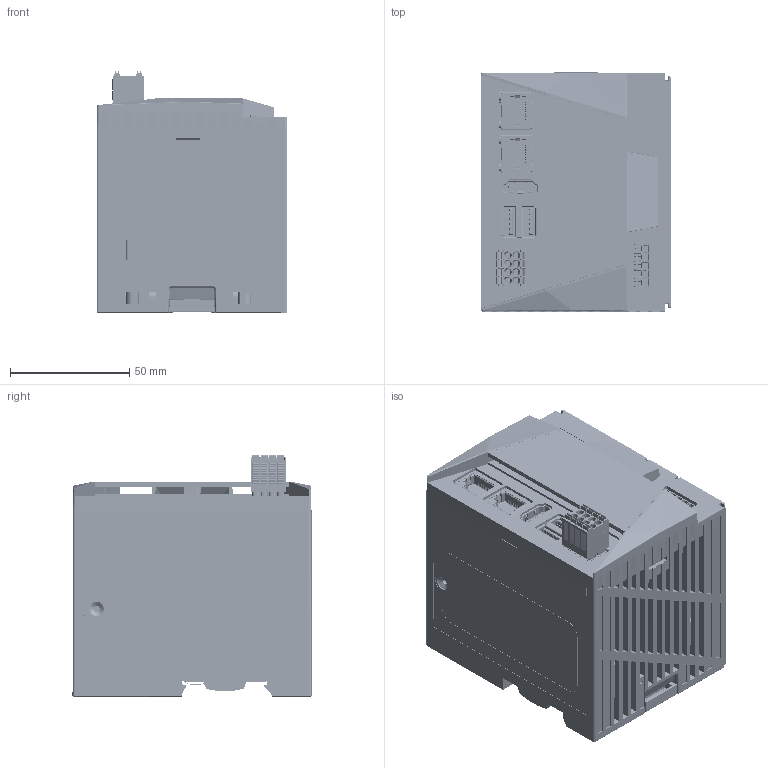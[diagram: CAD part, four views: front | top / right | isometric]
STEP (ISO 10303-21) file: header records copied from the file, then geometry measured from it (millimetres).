
FILE_DESCRIPTION((''),'2;1');
FILE_NAME('SX58__3D_ASM_ASM','2024-05-23T',('18137'),(''),'CREO PARAMETRIC BY PTC INC, 2016050','CREO PARAMETRIC BY PTC INC, 2016050','');
FILE_SCHEMA(('CONFIG_CONTROL_DESIGN'));
Products named in the file (45): PCB-DC_2_1; PCB-DC_2_2; PCB-DC_2_ASM; HDMI_1PORT-SIDERA-DIP_1; 15EDGRHC-THR-3_5-04P-13-00A_H__; 15EDGKNH-3_5-08P-14-00A_H__1; CK_ASM_1_ASM; USBX2_33_DIP_1; RB1-M0-1_RB1-M110_IP_10_OP-6658; RB1-P21X__2_______ALOCK___S___C; RB1-M0-1_RB1-M110_IP_10_OP-7667; RB1-M0-1_RB1-M110_IP_10_OP-7883; RB1-M0-1_RB1-M110_IP_10_OP-8535; LED_RIGHT___-2-SOLID1_1; RB1-C110_L___A-1_RB1-C110_5-1-S; RB1-M0-1_RB1-M110_IP_10_O-43653; RB1-M0-1_RB1-M110_IP_10_O-43850; RB1-M0-1_RB1-M110_IP_10_O-48815; RB1-C110_L___A-1_RB1-C110_7-1-S; RB1-M0-1_RB1-M110_IP_10_O-49218; RB1-C110_L___A-1_RB1-C110_8-1-S; RB1-C110_L___A-1_RB1-C110_3-1-S; RB1-C110_L___A-1_RB1-C110_4-1-S; Z26-RB10_9F1-1-SOLID1_1; RB1-C110_L___A-1_RB1-C110_1-1-S; RB1-M0-1_RB1-M110_IP_10_O-51459; RB1-M0-1_RB1-M110_IP_10_O-89698; RB1-S11X-X2_Y_TYPE_T_SPN1_0__S_; RB1-C110_L___A-1_RB1-C110_6-1-S; LED_RIGHT___-1-SOLID1_1; RB1-C110_L___A-1_RB1-C110_2-1-S; RB1-M0-1_RB1-M110_IP_10_O-93201; RJ45-1X1-LED-DOWN-TRANS-SHELL_1_ASM; RJ45-1X1-LED-DOWN-TRANS-SHELL-W_ASM; PCB-DC_ASM_30_ASM; BOTTOM_MD1_01_21_1; BOTTOM_MD1_01_21_2; BOTTOM_MD1_01_21_3; BOTTOM_MD1_01_21_4; BOTTOM_MD1_01_21_5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
Assembly tree (45 placements, depth 6):
  SX58__3D_ASM_ASM
    STACKING_ASM_8_ASM
      PCB-DC_ASM_30_ASM
        PCB-DC_2_ASM
          PCB-DC_2_1
          PCB-DC_2_2
        HDMI_1PORT-SIDERA-DIP_1
        CK_ASM_1_ASM
          15EDGRHC-THR-3_5-04P-13-00A_H__
          15EDGKNH-3_5-08P-14-00A_H__1
        USBX2_33_DIP_1
        RJ45-1X1-LED-DOWN-TRANS-SHELL-W_ASM  x2
          RJ45-1X1-LED-DOWN-TRANS-SHELL_1_ASM
            RB1-M0-1_RB1-M110_IP_10_OP-6658
            RB1-P21X__2_______ALOCK___S___C
            RB1-M0-1_RB1-M110_IP_10_OP-7667
            RB1-M0-1_RB1-M110_IP_10_OP-7883
            RB1-M0-1_RB1-M110_IP_10_OP-8535
            LED_RIGHT___-2-SOLID1_1
            RB1-C110_L___A-1_RB1-C110_5-1-S
            RB1-M0-1_RB1-M110_IP_10_O-43653
            RB1-M0-1_RB1-M110_IP_10_O-43850
            RB1-M0-1_RB1-M110_IP_10_O-48815
            RB1-C110_L___A-1_RB1-C110_7-1-S
            RB1-M0-1_RB1-M110_IP_10_O-49218
            RB1-C110_L___A-1_RB1-C110_8-1-S
            RB1-C110_L___A-1_RB1-C110_3-1-S
            RB1-C110_L___A-1_RB1-C110_4-1-S
            Z26-RB10_9F1-1-SOLID1_1
            RB1-C110_L___A-1_RB1-C110_1-1-S
            RB1-M0-1_RB1-M110_IP_10_O-51459
            RB1-M0-1_RB1-M110_IP_10_O-89698
            RB1-S11X-X2_Y_TYPE_T_SPN1_0__S_
            RB1-C110_L___A-1_RB1-C110_6-1-S
            LED_RIGHT___-1-SOLID1_1
            RB1-C110_L___A-1_RB1-C110_2-1-S
            RB1-M0-1_RB1-M110_IP_10_O-93201
      BOTTOM_MD1_01_21_ASM
        BOTTOM_MD1_01_21_1
        BOTTOM_MD1_01_21_2
        BOTTOM_MD1_01_21_3
        BOTTOM_MD1_01_21_4
        BOTTOM_MD1_01_21_5
        BOTTOM_MD1_01_21_6
        BOTTOM_MD1_01_21_7
Bounding box: 80 x 100.17 x 101.02 mm (x, y, z)
Volume: 552611 mm3; surface area: 171591.1 mm2
Topology: 66 solids, 84 shells, 11791 faces, 32644 edges, 21119 vertices
Faces by surface type: plane 8573, cylinder 2546, bspline 385, cone 165, torus 56, sphere 54, extrusion 12
Entity records: 306383 total; most frequent: CARTESIAN_POINT 73070, ORIENTED_EDGE 50666, DIRECTION 44904, EDGE_CURVE 25333, VECTOR 19806, LINE 19794, VERTEX_POINT 16390, AXIS2_PLACEMENT_3D 12549
